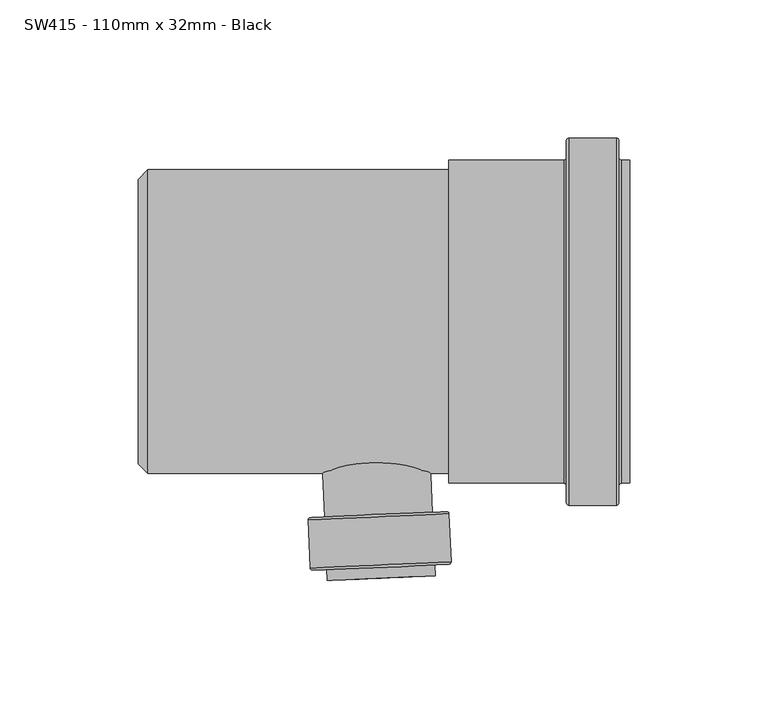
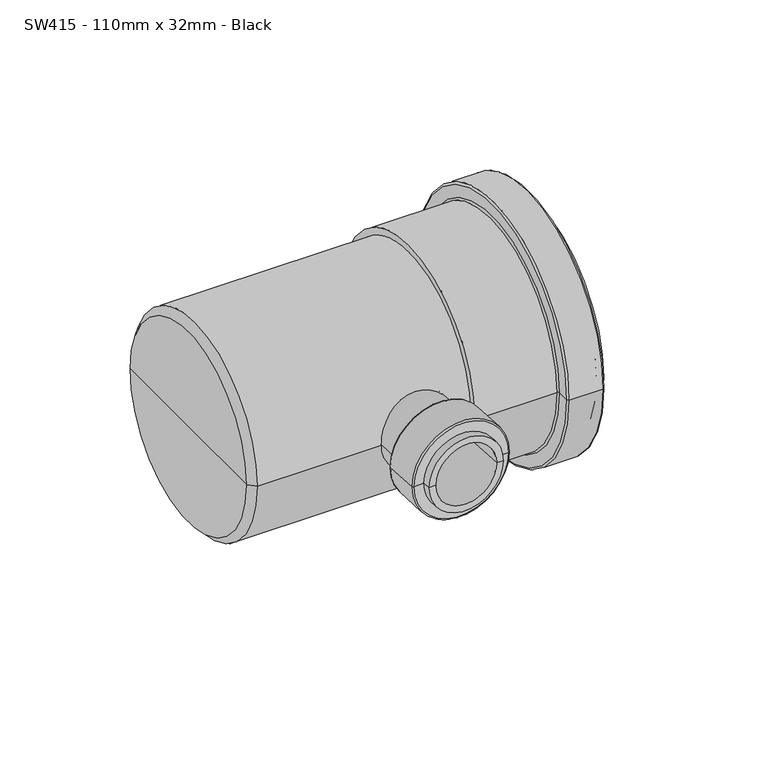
"""IFC4 building model written with IfcOpenShell, lengths in millimetres: pipe fitting geometry, MarleyPlumbingAndDrainage_PipeFitting_BossPipe87-5 : SW415 - 110mm x 32mm - Black."""

from ifc_helpers import new_model, si_unit, point, frame, origin, place, context, project, spatial, polyline, circle_curve, ellipse_curve, trimmed, source, transform, mapped, element, save
from ifc_brep_helpers import plane_surface, cylinder_surface, revolved_surface, advanced_brep


def sw415_110mm_x_32mm_black_172070dd(model_context):
    return source(origin(), model_context, "Body", "AdvancedBrep", [
        advanced_brep(
        [(-521.2966434, -89.7658698, 0.0), (-482.3337628, -88.0647137, 0.0), (-482.1592852, -92.0609066, 0.0), (-521.1221658, -93.7620627, 0.0), (-523.3031352, -43.8096516, 0.0), (-484.3402546, -42.1084955, 0.0), (-483.1625311, -69.0827975, 0.0), (-522.1254118, -70.7839536, 0.0), (-503.8216949, -42.9590735, 0.0), (-517.6254971, -93.6093948, 0.0), (-485.655954, -92.2135744, 0.0), (-487.4007295, -52.2516455, 0.0), (-519.3702726, -53.6474659, 0.0), (-526.4916941, -89.9926906, 0.0), (-477.138712, -87.8378929, 0.0), (-528.0848056, -71.8449085, 0.0), (-477.1333463, -69.6203197, 0.0), (-476.3743689, -87.0037588, 0.0), (-527.3258282, -89.2283475, 0.0), (-477.9674804, -68.8559766, 0.0), (-527.3204625, -71.0107744, 0.0), (-503.385501, -52.9495557, 0.0)],
        [
            (0, 1, circle_curve(frame((-501.8152031, -88.9152917, 0.0), z_axis=(0.04361938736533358, -0.9990482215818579, 0.0), x_axis=(0.9990482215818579, 0.04361938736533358, 0.0)), 19.5)),
            (1, 2),
            (2, 3, circle_curve(frame((-501.6407255, -92.9114846, 0.0), z_axis=(-0.04361938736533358, 0.9990482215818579, 0.0), x_axis=(0.9990482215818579, 0.04361938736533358, 0.0)), 19.5)),
            (3, 0),
            (1, 0, circle_curve(frame((-501.8152031, -88.9152917, 0.0), z_axis=(0.04361938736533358, -0.9990482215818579, 0.0), x_axis=(0.9990482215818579, 0.04361938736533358, 0.0)), 19.5)),
            (3, 2, circle_curve(frame((-501.6407255, -92.9114846, 0.0), z_axis=(-0.04361938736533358, 0.9990482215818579, 0.0), x_axis=(0.9990482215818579, 0.04361938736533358, 0.0)), 19.5)),
            (4, 5, circle_curve(frame((-503.8216949, -42.9590735, 0.0), z_axis=(0.04361938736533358, -0.9990482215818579, 0.0), x_axis=(0.9990482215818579, 0.04361938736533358, 0.0)), 19.5)),
            (5, 6),
            (6, 7, circle_curve(frame((-502.6439714, -69.9333755, 0.0), z_axis=(-0.04361938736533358, 0.9990482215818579, 0.0), x_axis=(0.9990482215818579, 0.04361938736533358, 0.0)), 19.5)),
            (7, 4),
            (5, 4, circle_curve(frame((-503.8216949, -42.9590735, 0.0), z_axis=(0.04361938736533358, -0.9990482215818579, 0.0), x_axis=(0.9990482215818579, 0.04361938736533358, 0.0)), 19.5)),
            (7, 6, circle_curve(frame((-502.6439714, -69.9333755, 0.0), z_axis=(-0.04361938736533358, 0.9990482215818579, 0.0), x_axis=(0.9990482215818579, 0.04361938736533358, 0.0)), 19.5)),
            (8, 5),
            (4, 8),
            (9, 10, circle_curve(frame((-501.6407255, -92.9114846, 0.0), z_axis=(0.04361938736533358, -0.9990482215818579, 0.0), x_axis=(0.9990482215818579, 0.04361938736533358, 0.0)), 16.0)),
            (10, 11),
            (11, 12, circle_curve(frame((-503.385501, -52.9495557, 0.0), z_axis=(-0.04361938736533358, 0.9990482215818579, 0.0), x_axis=(0.9990482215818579, 0.04361938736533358, 0.0)), 16.0)),
            (12, 9),
            (10, 9, circle_curve(frame((-501.6407255, -92.9114846, 0.0), z_axis=(0.04361938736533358, -0.9990482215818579, 0.0), x_axis=(0.9990482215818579, 0.04361938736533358, 0.0)), 16.0)),
            (12, 11, circle_curve(frame((-503.385501, -52.9495557, 0.0), z_axis=(-0.04361938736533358, 0.9990482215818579, 0.0), x_axis=(0.9990482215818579, 0.04361938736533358, 0.0)), 16.0)),
            (2, 10),
            (9, 3),
            (13, 14, circle_curve(frame((-501.8152031, -88.9152917, 0.0), z_axis=(0.04361938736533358, -0.9990482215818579, 0.0), x_axis=(0.9990482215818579, 0.04361938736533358, 0.0)), 24.7)),
            (14, 1),
            (0, 13),
            (14, 13, circle_curve(frame((-501.8152031, -88.9152917, 0.0), z_axis=(0.04361938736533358, -0.9990482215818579, 0.0), x_axis=(0.9990482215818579, 0.04361938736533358, 0.0)), 24.7)),
            (15, 16, circle_curve(frame((-502.6090759, -70.7326141, 0.0), z_axis=(0.04361938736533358, -0.9990482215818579, 0.0), x_axis=(0.9990482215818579, 0.04361938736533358, 0.0)), 25.5)),
            (16, 17),
            (17, 18, circle_curve(frame((-501.8500986, -88.1160531, 0.0), z_axis=(-0.04361938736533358, 0.9990482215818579, 0.0), x_axis=(0.9990482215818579, 0.04361938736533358, 0.0)), 25.5)),
            (18, 15),
            (16, 15, circle_curve(frame((-502.6090759, -70.7326141, 0.0), z_axis=(0.04361938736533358, -0.9990482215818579, 0.0), x_axis=(0.9990482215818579, 0.04361938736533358, 0.0)), 25.5)),
            (18, 17, circle_curve(frame((-501.8500986, -88.1160531, 0.0), z_axis=(-0.04361938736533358, 0.9990482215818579, 0.0), x_axis=(0.9990482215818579, 0.04361938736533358, 0.0)), 25.5)),
            (6, 19),
            (19, 20, circle_curve(frame((-502.6439714, -69.9333755, 0.0), z_axis=(-0.04361938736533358, 0.9990482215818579, 0.0), x_axis=(0.9990482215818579, 0.04361938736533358, 0.0)), 24.7)),
            (20, 7),
            (20, 19, circle_curve(frame((-502.6439714, -69.9333755, 0.0), z_axis=(-0.04361938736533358, 0.9990482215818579, 0.0), x_axis=(0.9990482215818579, 0.04361938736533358, 0.0)), 24.7)),
            (11, 21),
            (21, 12),
            (17, 14, circle_curve(frame((-477.1736075, -87.0386543, 0.0), z_axis=(0.0, 0.0, -1.0000000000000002), x_axis=(-0.9961946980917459, -0.08715574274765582, 0.0)), 0.8)),
            (13, 18, circle_curve(frame((-526.5265897, -89.193452, 0.0), z_axis=(0.0, 0.0, -1.0000000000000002), x_axis=(1.0000000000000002, 0.0, 0.0)), 0.8)),
            (19, 16, circle_curve(frame((-477.9325848, -69.6552152, 0.0), z_axis=(0.0, 0.0, -1.0000000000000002), x_axis=(-0.9961946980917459, -0.08715574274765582, 0.0)), 0.8)),
            (15, 20, circle_curve(frame((-527.285567, -71.810013, 0.0), z_axis=(0.0, 0.0, -1.0000000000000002), x_axis=(1.0000000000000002, 0.0, 0.0)), 0.8)),
        ],
        [
            cylinder_surface(frame((-496.8433826, -202.7887029, 0.0), z_axis=(-0.04361938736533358, 0.9990482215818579, 0.0), x_axis=(0.9990482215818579, 0.04361938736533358, 0.0)), 19.5),
            plane_surface(frame((-503.8216949, -42.9590735, 0.0), z_axis=(-0.04361938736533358, 0.9990482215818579, 0.0), x_axis=(0.9990482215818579, 0.04361938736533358, 0.0))),
            revolved_surface(polyline([(-487.4007295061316, -52.2516455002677, 0.0), (-485.65595400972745, -92.21357440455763, 0.0)]), (-496.8433826, -202.7887029, 0.0), (-0.04361938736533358, 0.9990482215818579, 0.0)),
            plane_surface(frame((-501.6407255, -92.9114846, 0.0), z_axis=(0.04361938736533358, -0.9990482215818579, 0.0), x_axis=(0.9990482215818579, 0.04361938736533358, 0.0))),
            plane_surface(frame((-501.8152031, -88.9152917, 0.0), z_axis=(0.04361938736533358, -0.9990482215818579, 0.0), x_axis=(0.9990482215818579, 0.04361938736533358, 0.0))),
            cylinder_surface(frame((-496.8433826, -202.7887029, 0.0), z_axis=(-0.04361938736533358, 0.9990482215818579, 0.0), x_axis=(0.9990482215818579, 0.04361938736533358, 0.0)), 25.5),
            plane_surface(frame((-502.6439714, -69.9333755, 0.0), z_axis=(-0.04361938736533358, 0.9990482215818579, 0.0), x_axis=(0.9990482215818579, 0.04361938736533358, 0.0))),
            plane_surface(frame((-503.385501, -52.9495557, 0.0), z_axis=(0.04361938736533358, -0.9990482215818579, 0.0), x_axis=(0.9990482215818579, 0.04361938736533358, 0.0))),
            revolved_surface(trimmed(ellipse_curve(frame((-477.1736075, -87.0386543, 0.0), z_axis=(0.0, 0.0, 1.0000000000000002), x_axis=(-0.9961946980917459, -0.08715574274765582, 0.0)), 0.8, 0.8), [point((-477.138712, -87.8378929, 0.0))], [point((-476.3743689, -87.0037588, 0.0))], True, "CARTESIAN"), (-496.8433826, -202.7887029, 0.0), (-0.04361938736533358, 0.9990482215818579, 0.0)),
            revolved_surface(trimmed(ellipse_curve(frame((-477.9325848, -69.6552152, 0.0), z_axis=(0.0, 0.0, 1.0000000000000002), x_axis=(-0.9961946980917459, -0.08715574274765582, 0.0)), 0.8, 0.8), [point((-477.1333463, -69.6203197, 0.0))], [point((-477.9674804, -68.8559766, 0.0))], True, "CARTESIAN"), (-496.8433826, -202.7887029, 0.0), (-0.04361938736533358, 0.9990482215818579, 0.0)),
        ],
        [
            (0, [[1, 2, 3, 4]]),
            (0, [[5, -4, 6, -2]]),
            (0, [[7, 8, 9, 10]]),
            (0, [[11, -10, 12, -8]]),
            (1, [[13, -7, 14]]),
            (1, [[-14, -11, -13]]),
            (2, [[15, 16, 17, 18]]),
            (2, [[19, -18, 20, -16]]),
            (3, [[-3, 21, -15, 22]]),
            (3, [[-6, -22, -19, -21]]),
            (4, [[23, 24, -1, 25]]),
            (4, [[26, -25, -5, -24]]),
            (5, [[27, 28, 29, 30]]),
            (5, [[31, -30, 32, -28]]),
            (6, [[-9, 33, 34, 35]]),
            (6, [[-12, -35, 36, -33]]),
            (7, [[-17, 37, 38]]),
            (7, [[-20, -38, -37]]),
            (8, [[-29, 39, -23, 40]]),
            (8, [[-32, -40, -26, -39]]),
            (9, [[-34, 41, -27, 42]]),
            (9, [[-36, -42, -31, -41]]),
        ],
    ),
        advanced_brep(
        [(-414.6407255, -58.5, 0.0), (-414.6407255, 58.5, 0.0), (-411.6407255, 58.5, 0.0), (-411.6407255, -58.5, 0.0), (-415.6407255, -65.5, 0.0), (-415.6407255, 65.5, 0.0), (-415.6407255, 59.5, 0.0), (-415.6407255, -59.5, 0.0), (-433.6407255, -66.5, 0.0), (-433.6407255, 66.5, 0.0), (-416.6407255, 66.5, 0.0), (-416.6407255, -66.5, 0.0), (-434.6407255, -59.5, 0.0), (-434.6407255, 59.5, 0.0), (-434.6407255, 65.5, 0.0), (-434.6407255, -65.5, 0.0), (-477.1407255, -58.5, 0.0), (-477.1407255, 58.5, 0.0), (-435.6407255, 58.5, 0.0), (-435.6407255, -58.5, 0.0), (-477.1407255, -55.0, 0.0), (-477.1407255, 55.0, 0.0), (-586.1407255, -55.0, 0.0), (-586.1407255, 55.0, 0.0), (-589.6407255, -51.5, 0.0), (-589.6407255, 51.5, 0.0), (-589.6407255, 0.0, 0.0), (-473.6407255, -55.0, 0.0), (-473.6407255, 55.0, 0.0), (-473.6407255, 0.0, 0.0), (-411.6407255, -55.0, 0.0), (-411.6407255, 55.0, 0.0)],
        [
            (0, 1, circle_curve(frame((-414.6407255, 0.0, 0.0), z_axis=(1.0, 0.0, 0.0), x_axis=(0.0, 1.0, 0.0)), 58.5)),
            (1, 2),
            (2, 3, circle_curve(frame((-411.6407255, 0.0, 0.0), z_axis=(-1.0, 0.0, 0.0), x_axis=(0.0, 1.0, 0.0)), 58.5)),
            (3, 0),
            (1, 0, circle_curve(frame((-414.6407255, 0.0, 0.0), z_axis=(1.0, 0.0, 0.0), x_axis=(0.0, 1.0, 0.0)), 58.5)),
            (3, 2, circle_curve(frame((-411.6407255, 0.0, 0.0), z_axis=(-1.0, 0.0, 0.0), x_axis=(0.0, 1.0, 0.0)), 58.5)),
            (4, 5, circle_curve(frame((-415.6407255, 0.0, 0.0), z_axis=(1.0, 0.0, 0.0), x_axis=(0.0, 1.0, 0.0)), 65.5)),
            (5, 6),
            (6, 7, circle_curve(frame((-415.6407255, 0.0, 0.0), z_axis=(-1.0, 0.0, 0.0), x_axis=(0.0, 1.0, 0.0)), 59.5)),
            (7, 4),
            (5, 4, circle_curve(frame((-415.6407255, 0.0, 0.0), z_axis=(1.0, 0.0, 0.0), x_axis=(0.0, 1.0, 0.0)), 65.5)),
            (7, 6, circle_curve(frame((-415.6407255, 0.0, 0.0), z_axis=(-1.0, 0.0, 0.0), x_axis=(0.0, 1.0, 0.0)), 59.5)),
            (8, 9, circle_curve(frame((-433.6407255, 0.0, 0.0), z_axis=(1.0, 0.0, 0.0), x_axis=(0.0, 1.0, 0.0)), 66.5)),
            (9, 10),
            (10, 11, circle_curve(frame((-416.6407255, 0.0, 0.0), z_axis=(-1.0, 0.0, 0.0), x_axis=(0.0, 1.0, 0.0)), 66.5)),
            (11, 8),
            (9, 8, circle_curve(frame((-433.6407255, 0.0, 0.0), z_axis=(1.0, 0.0, 0.0), x_axis=(0.0, 1.0, 0.0)), 66.5)),
            (11, 10, circle_curve(frame((-416.6407255, 0.0, 0.0), z_axis=(-1.0, 0.0, 0.0), x_axis=(0.0, 1.0, 0.0)), 66.5)),
            (12, 13, circle_curve(frame((-434.6407255, 0.0, 0.0), z_axis=(1.0, 0.0, 0.0), x_axis=(0.0, 1.0, 0.0)), 59.5)),
            (13, 14),
            (14, 15, circle_curve(frame((-434.6407255, 0.0, 0.0), z_axis=(-1.0, 0.0, 0.0), x_axis=(0.0, 1.0, 0.0)), 65.5)),
            (15, 12),
            (13, 12, circle_curve(frame((-434.6407255, 0.0, 0.0), z_axis=(1.0, 0.0, 0.0), x_axis=(0.0, 1.0, 0.0)), 59.5)),
            (15, 14, circle_curve(frame((-434.6407255, 0.0, 0.0), z_axis=(-1.0, 0.0, 0.0), x_axis=(0.0, 1.0, 0.0)), 65.5)),
            (16, 17, circle_curve(frame((-477.1407255, 0.0, 0.0), z_axis=(1.0, 0.0, 0.0), x_axis=(0.0, 1.0, 0.0)), 58.5)),
            (17, 18),
            (18, 19, circle_curve(frame((-435.6407255, 0.0, 0.0), z_axis=(-1.0, 0.0, 0.0), x_axis=(0.0, 1.0, 0.0)), 58.5)),
            (19, 16),
            (17, 16, circle_curve(frame((-477.1407255, 0.0, 0.0), z_axis=(1.0, 0.0, 0.0), x_axis=(0.0, 1.0, 0.0)), 58.5)),
            (19, 18, circle_curve(frame((-435.6407255, 0.0, 0.0), z_axis=(-1.0, 0.0, 0.0), x_axis=(0.0, 1.0, 0.0)), 58.5)),
            (20, 21, circle_curve(frame((-477.1407255, 0.0, 0.0), z_axis=(1.0, 0.0, 0.0), x_axis=(0.0, 1.0, 0.0)), 55.0)),
            (21, 17),
            (16, 20),
            (21, 20, circle_curve(frame((-477.1407255, 0.0, 0.0), z_axis=(1.0, 0.0, 0.0), x_axis=(0.0, 1.0, 0.0)), 55.0)),
            (22, 23, circle_curve(frame((-586.1407255, 0.0, 0.0), z_axis=(1.0, 0.0, 0.0), x_axis=(0.0, 1.0, 0.0)), 55.0)),
            (23, 21),
            (20, 22),
            (23, 22, circle_curve(frame((-586.1407255, 0.0, 0.0), z_axis=(1.0, 0.0, 0.0), x_axis=(0.0, 1.0, 0.0)), 55.0)),
            (24, 25, circle_curve(frame((-589.6407255, 0.0, 0.0), z_axis=(1.0, 0.0, 0.0), x_axis=(0.0, 1.0, 0.0)), 51.5)),
            (25, 23),
            (22, 24),
            (25, 24, circle_curve(frame((-589.6407255, 0.0, 0.0), z_axis=(1.0, 0.0, 0.0), x_axis=(0.0, 1.0, 0.0)), 51.5)),
            (26, 25),
            (24, 26),
            (27, 28, circle_curve(frame((-473.6407255, 0.0, 0.0), z_axis=(1.0, 0.0, 0.0), x_axis=(0.0, 1.0, 0.0)), 55.0)),
            (28, 29),
            (29, 27),
            (28, 27, circle_curve(frame((-473.6407255, 0.0, 0.0), z_axis=(1.0, 0.0, 0.0), x_axis=(0.0, 1.0, 0.0)), 55.0)),
            (30, 31, circle_curve(frame((-411.6407255, 0.0, 0.0), z_axis=(1.0, 0.0, 0.0), x_axis=(0.0, 1.0, 0.0)), 55.0)),
            (31, 28),
            (27, 30),
            (31, 30, circle_curve(frame((-411.6407255, 0.0, 0.0), z_axis=(1.0, 0.0, 0.0), x_axis=(0.0, 1.0, 0.0)), 55.0)),
            (2, 31),
            (30, 3),
            (6, 1, circle_curve(frame((-414.6407255, 59.5, 0.0), z_axis=(0.0, 0.0, 1.0), x_axis=(1.0, 0.0, 0.0)), 1.0)),
            (0, 7, circle_curve(frame((-414.6407255, -59.5, 0.0), z_axis=(0.0, 0.0, 1.0), x_axis=(1.0, 0.0, 0.0)), 1.0)),
            (10, 5, circle_curve(frame((-416.6407255, 65.5, 0.0), z_axis=(0.0, 0.0, -1.0), x_axis=(1.0, 0.0, 0.0)), 1.0)),
            (4, 11, circle_curve(frame((-416.6407255, -65.5, 0.0), z_axis=(0.0, 0.0, -1.0), x_axis=(1.0, 0.0, 0.0)), 1.0)),
            (14, 9, circle_curve(frame((-433.6407255, 65.5, 0.0), z_axis=(0.0, 0.0, -1.0), x_axis=(1.0, 0.0, 0.0)), 1.0)),
            (8, 15, circle_curve(frame((-433.6407255, -65.5, 0.0), z_axis=(0.0, 0.0, -1.0), x_axis=(1.0, 0.0, 0.0)), 1.0)),
            (18, 13, circle_curve(frame((-435.6407255, 59.5, 0.0), z_axis=(0.0, 0.0, 1.0), x_axis=(1.0, 0.0, 0.0)), 1.0)),
            (12, 19, circle_curve(frame((-435.6407255, -59.5, 0.0), z_axis=(0.0, 0.0, 1.0), x_axis=(1.0, 0.0, 0.0)), 1.0)),
        ],
        [
            cylinder_surface(frame((2005.056603, 0.0, 0.0), z_axis=(-1.0, 0.0, 0.0), x_axis=(0.0, 1.0, 0.0)), 58.5),
            plane_surface(frame((-415.6407255, 0.0, 0.0), z_axis=(1.0, 0.0, 0.0), x_axis=(0.0, 1.0, 0.0))),
            cylinder_surface(frame((2005.056603, 0.0, 0.0), z_axis=(-1.0, 0.0, 0.0), x_axis=(0.0, 1.0, 0.0)), 66.5),
            plane_surface(frame((-434.6407255, 0.0, 0.0), z_axis=(-1.0, 0.0, 0.0), x_axis=(0.0, 1.0, 0.0))),
            plane_surface(frame((-477.1407255, 0.0, 0.0), z_axis=(-1.0, 0.0, 0.0), x_axis=(0.0, 1.0, 0.0))),
            cylinder_surface(frame((2005.056603, 0.0, 0.0), z_axis=(-1.0, 0.0, 0.0), x_axis=(0.0, 1.0, 0.0)), 55.0),
            revolved_surface(polyline([(-586.1407255, 55.0, 0.0), (-589.6407255, 51.5, 0.0)]), (2005.056603, 0.0, 0.0), (-1.0, 0.0, 0.0)),
            plane_surface(frame((-589.6407255, 0.0, 0.0), z_axis=(-1.0, 0.0, 0.0), x_axis=(0.0, 1.0, 0.0))),
            plane_surface(frame((-473.6407255, 0.0, 0.0), z_axis=(1.0, 0.0, 0.0), x_axis=(0.0, 1.0, 0.0))),
            revolved_surface(polyline([(-473.6407254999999, 55.0, 0.0), (-411.6407254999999, 55.0, 0.0)]), (2005.056603, 0.0, 0.0), (-1.0, 0.0, 0.0)),
            plane_surface(frame((-411.6407255, 0.0, 0.0), z_axis=(1.0, 0.0, 0.0), x_axis=(0.0, 1.0, 0.0))),
            revolved_surface(trimmed(ellipse_curve(frame((-414.6407255, 59.5, 0.0), z_axis=(0.0, 0.0, -1.0), x_axis=(1.0, 0.0, 0.0)), 1.0, 1.0), [point((-414.6407255, 58.5, 0.0))], [point((-415.6407255, 59.5, 0.0))], True, "CARTESIAN"), (2005.056603, 0.0, 0.0), (-1.0, 0.0, 0.0)),
            revolved_surface(trimmed(ellipse_curve(frame((-416.6407255, 65.5, 0.0), z_axis=(0.0, 0.0, 1.0), x_axis=(1.0, 0.0, 0.0)), 1.0, 1.0), [point((-415.6407255, 65.5, 0.0))], [point((-416.6407255, 66.5, 0.0))], True, "CARTESIAN"), (2005.056603, 0.0, 0.0), (-1.0, 0.0, 0.0)),
            revolved_surface(trimmed(ellipse_curve(frame((-433.6407255, 65.5, 0.0), z_axis=(0.0, 0.0, 1.0), x_axis=(1.0, 0.0, 0.0)), 1.0, 1.0), [point((-433.6407255, 66.5, 0.0))], [point((-434.6407255, 65.5, 0.0))], True, "CARTESIAN"), (2005.056603, 0.0, 0.0), (-1.0, 0.0, 0.0)),
            revolved_surface(trimmed(ellipse_curve(frame((-435.6407255, 59.5, 0.0), z_axis=(0.0, 0.0, -1.0), x_axis=(1.0, 0.0, 0.0)), 1.0, 1.0), [point((-434.6407255, 59.5, 0.0))], [point((-435.6407255, 58.5, 0.0))], True, "CARTESIAN"), (2005.056603, 0.0, 0.0), (-1.0, 0.0, 0.0)),
        ],
        [
            (0, [[1, 2, 3, 4]]),
            (0, [[5, -4, 6, -2]]),
            (1, [[7, 8, 9, 10]]),
            (1, [[11, -10, 12, -8]]),
            (2, [[13, 14, 15, 16]]),
            (2, [[17, -16, 18, -14]]),
            (3, [[19, 20, 21, 22]]),
            (3, [[23, -22, 24, -20]]),
            (0, [[25, 26, 27, 28]]),
            (0, [[29, -28, 30, -26]]),
            (4, [[31, 32, -25, 33]]),
            (4, [[34, -33, -29, -32]]),
            (5, [[35, 36, -31, 37]]),
            (5, [[38, -37, -34, -36]]),
            (6, [[39, 40, -35, 41]]),
            (6, [[42, -41, -38, -40]]),
            (7, [[43, -39, 44]]),
            (7, [[-44, -42, -43]]),
            (8, [[45, 46, 47]]),
            (8, [[48, -47, -46]]),
            (9, [[49, 50, -45, 51]]),
            (9, [[52, -51, -48, -50]]),
            (10, [[-3, 53, -49, 54]]),
            (10, [[-6, -54, -52, -53]]),
            (11, [[-9, 55, -1, 56]]),
            (11, [[-12, -56, -5, -55]]),
            (12, [[-15, 57, -7, 58]]),
            (12, [[-18, -58, -11, -57]]),
            (13, [[-21, 59, -13, 60]]),
            (13, [[-24, -60, -17, -59]]),
            (14, [[-27, 61, -19, 62]]),
            (14, [[-30, -62, -23, -61]]),
        ],
    ),
    ])


if __name__ == "__main__":
    model = new_model("IFC4")
    model_context = context("Model", 3, world=origin())
    ifc_project = project(units=[si_unit("LENGTHUNIT", "METRE", prefix="MILLI")], contexts=[model_context])
    site = spatial("IfcSite", under=ifc_project)
    building = spatial("IfcBuilding", under=site)
    placement = place(None, origin())
    sw415_110mm_x_32mm_black_shape = sw415_110mm_x_32mm_black_172070dd(model_context)
    element("IfcPipeFitting", 1, ObjectType="MarleyPlumbingAndDrainage_PipeFitting_BossPipe87-5 : SW415 - 110mm x 32mm - Black", at=placement, inside=building, context=model_context, shape_type="MappedRepresentation", body=[
        mapped(sw415_110mm_x_32mm_black_shape, transform((0.0, 0.0, 0.0), x_axis=(1.0, 0.0, 0.0), y_axis=(0.0, 1.0, 0.0), z_axis=(0.0, 0.0, 1.0))),
    ])
    save(model, "model.ifc")
